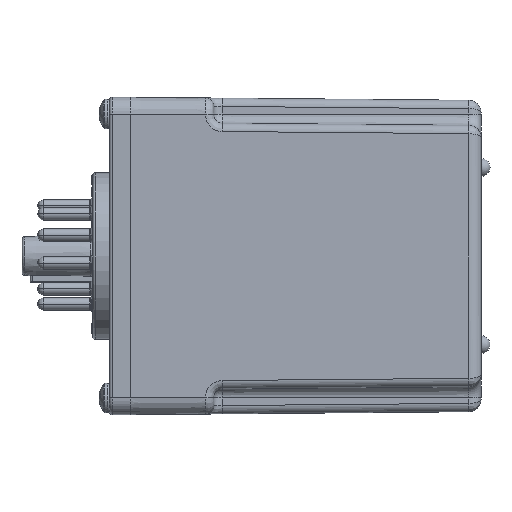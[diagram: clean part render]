
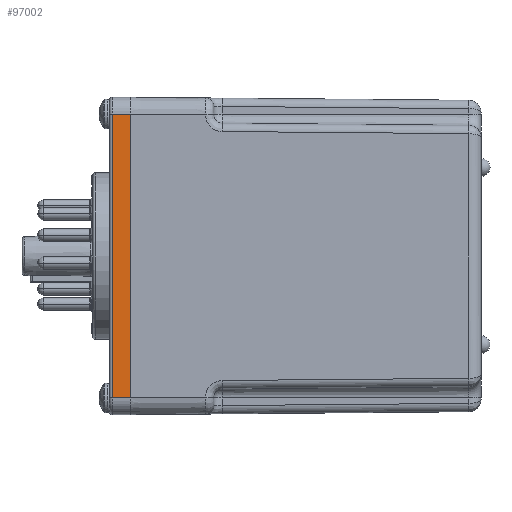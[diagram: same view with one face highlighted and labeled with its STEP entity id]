
A CAD part, left-side view. The second image highlights one B-rep face of the part: STEP entity #97002.
In plain terms, the highlighted planar face has unit normal (-1, 0, 0).
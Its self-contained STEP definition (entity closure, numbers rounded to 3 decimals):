
#75119 = CYLINDRICAL_SURFACE('',#75120,0.508);
#75120 = AXIS2_PLACEMENT_3D('',#75121,#75122,#75123);
#75121 = CARTESIAN_POINT('',(-21.717,29.21,-30.163));
#75122 = DIRECTION('',(0.,0.,1.));
#75123 = DIRECTION('',(1.,0.,0.));
#75706 = PLANE('',#75707);
#75707 = AXIS2_PLACEMENT_3D('',#75708,#75709,#75710);
#75708 = CARTESIAN_POINT('',(-22.225,25.756,-30.163));
#75709 = DIRECTION('',(0.,1.,0.));
#75710 = DIRECTION('',(1.,0.,-0.));
#82195 = VERTEX_POINT('',#82196);
#82196 = CARTESIAN_POINT('',(-22.225,25.756,26.988));
#82215 = CYLINDRICAL_SURFACE('',#82216,3.175);
#82216 = AXIS2_PLACEMENT_3D('',#82217,#82218,#82219);
#82217 = CARTESIAN_POINT('',(-19.05,25.756,26.988));
#82218 = DIRECTION('',(0.,1.,0.));
#82219 = DIRECTION('',(0.,0.,-1.));
#82227 = EDGE_CURVE('',#82228,#82195,#82230,.T.);
#82228 = VERTEX_POINT('',#82229);
#82229 = CARTESIAN_POINT('',(-22.225,25.756,-26.988));
#82230 = SURFACE_CURVE('',#82231,(#82235,#82242),.PCURVE_S1.);
#82231 = LINE('',#82232,#82233);
#82232 = CARTESIAN_POINT('',(-22.225,25.756,-30.163));
#82233 = VECTOR('',#82234,1.);
#82234 = DIRECTION('',(0.,-0.,1.));
#82235 = PCURVE('',#75706,#82236);
#82236 = DEFINITIONAL_REPRESENTATION('',(#82237),#82241);
#82237 = LINE('',#82238,#82239);
#82238 = CARTESIAN_POINT('',(0.,0.));
#82239 = VECTOR('',#82240,1.);
#82240 = DIRECTION('',(0.,-1.));
#82241 = ( GEOMETRIC_REPRESENTATION_CONTEXT(2) 
PARAMETRIC_REPRESENTATION_CONTEXT() REPRESENTATION_CONTEXT('2D SPACE',''
  ) );
#82242 = PCURVE('',#82243,#82248);
#82243 = PLANE('',#82244);
#82244 = AXIS2_PLACEMENT_3D('',#82245,#82246,#82247);
#82245 = CARTESIAN_POINT('',(-22.225,25.756,-30.163));
#82246 = DIRECTION('',(1.,0.,0.));
#82247 = DIRECTION('',(0.,0.,-1.));
#82248 = DEFINITIONAL_REPRESENTATION('',(#82249),#82253);
#82249 = LINE('',#82250,#82251);
#82250 = CARTESIAN_POINT('',(0.,0.));
#82251 = VECTOR('',#82252,1.);
#82252 = DIRECTION('',(-1.,0.));
#82253 = ( GEOMETRIC_REPRESENTATION_CONTEXT(2) 
PARAMETRIC_REPRESENTATION_CONTEXT() REPRESENTATION_CONTEXT('2D SPACE',''
  ) );
#82274 = CYLINDRICAL_SURFACE('',#82275,3.175);
#82275 = AXIS2_PLACEMENT_3D('',#82276,#82277,#82278);
#82276 = CARTESIAN_POINT('',(-19.05,29.718,-26.988));
#82277 = DIRECTION('',(0.,-1.,0.));
#82278 = DIRECTION('',(0.,0.,1.));
#97002 = ADVANCED_FACE('',(#97003),#82243,.F.);
#97003 = FACE_BOUND('',#97004,.T.);
#97004 = EDGE_LOOP('',(#97005,#97028,#97051,#97072));
#97005 = ORIENTED_EDGE('',*,*,#97006,.T.);
#97006 = EDGE_CURVE('',#82195,#97007,#97009,.T.);
#97007 = VERTEX_POINT('',#97008);
#97008 = CARTESIAN_POINT('',(-22.225,29.21,26.988));
#97009 = SURFACE_CURVE('',#97010,(#97014,#97021),.PCURVE_S1.);
#97010 = LINE('',#97011,#97012);
#97011 = CARTESIAN_POINT('',(-22.225,25.756,26.988));
#97012 = VECTOR('',#97013,1.);
#97013 = DIRECTION('',(0.,1.,0.));
#97014 = PCURVE('',#82243,#97015);
#97015 = DEFINITIONAL_REPRESENTATION('',(#97016),#97020);
#97016 = LINE('',#97017,#97018);
#97017 = CARTESIAN_POINT('',(-57.15,0.));
#97018 = VECTOR('',#97019,1.);
#97019 = DIRECTION('',(0.,1.));
#97020 = ( GEOMETRIC_REPRESENTATION_CONTEXT(2) 
PARAMETRIC_REPRESENTATION_CONTEXT() REPRESENTATION_CONTEXT('2D SPACE',''
  ) );
#97021 = PCURVE('',#82215,#97022);
#97022 = DEFINITIONAL_REPRESENTATION('',(#97023),#97027);
#97023 = LINE('',#97024,#97025);
#97024 = CARTESIAN_POINT('',(1.571,0.));
#97025 = VECTOR('',#97026,1.);
#97026 = DIRECTION('',(0.,1.));
#97027 = ( GEOMETRIC_REPRESENTATION_CONTEXT(2) 
PARAMETRIC_REPRESENTATION_CONTEXT() REPRESENTATION_CONTEXT('2D SPACE',''
  ) );
#97028 = ORIENTED_EDGE('',*,*,#97029,.T.);
#97029 = EDGE_CURVE('',#97007,#97030,#97032,.T.);
#97030 = VERTEX_POINT('',#97031);
#97031 = CARTESIAN_POINT('',(-22.225,29.21,-26.988));
#97032 = SURFACE_CURVE('',#97033,(#97037,#97044),.PCURVE_S1.);
#97033 = LINE('',#97034,#97035);
#97034 = CARTESIAN_POINT('',(-22.225,29.21,-30.163));
#97035 = VECTOR('',#97036,1.);
#97036 = DIRECTION('',(0.,0.,-1.));
#97037 = PCURVE('',#82243,#97038);
#97038 = DEFINITIONAL_REPRESENTATION('',(#97039),#97043);
#97039 = LINE('',#97040,#97041);
#97040 = CARTESIAN_POINT('',(0.,3.454));
#97041 = VECTOR('',#97042,1.);
#97042 = DIRECTION('',(1.,0.));
#97043 = ( GEOMETRIC_REPRESENTATION_CONTEXT(2) 
PARAMETRIC_REPRESENTATION_CONTEXT() REPRESENTATION_CONTEXT('2D SPACE',''
  ) );
#97044 = PCURVE('',#75119,#97045);
#97045 = DEFINITIONAL_REPRESENTATION('',(#97046),#97050);
#97046 = LINE('',#97047,#97048);
#97047 = CARTESIAN_POINT('',(3.142,0.));
#97048 = VECTOR('',#97049,1.);
#97049 = DIRECTION('',(0.,-1.));
#97050 = ( GEOMETRIC_REPRESENTATION_CONTEXT(2) 
PARAMETRIC_REPRESENTATION_CONTEXT() REPRESENTATION_CONTEXT('2D SPACE',''
  ) );
#97051 = ORIENTED_EDGE('',*,*,#97052,.T.);
#97052 = EDGE_CURVE('',#97030,#82228,#97053,.T.);
#97053 = SURFACE_CURVE('',#97054,(#97058,#97065),.PCURVE_S1.);
#97054 = LINE('',#97055,#97056);
#97055 = CARTESIAN_POINT('',(-22.225,25.756,-26.988));
#97056 = VECTOR('',#97057,1.);
#97057 = DIRECTION('',(0.,-1.,0.));
#97058 = PCURVE('',#82243,#97059);
#97059 = DEFINITIONAL_REPRESENTATION('',(#97060),#97064);
#97060 = LINE('',#97061,#97062);
#97061 = CARTESIAN_POINT('',(-3.175,0.));
#97062 = VECTOR('',#97063,1.);
#97063 = DIRECTION('',(0.,-1.));
#97064 = ( GEOMETRIC_REPRESENTATION_CONTEXT(2) 
PARAMETRIC_REPRESENTATION_CONTEXT() REPRESENTATION_CONTEXT('2D SPACE',''
  ) );
#97065 = PCURVE('',#82274,#97066);
#97066 = DEFINITIONAL_REPRESENTATION('',(#97067),#97071);
#97067 = LINE('',#97068,#97069);
#97068 = CARTESIAN_POINT('',(1.571,3.962));
#97069 = VECTOR('',#97070,1.);
#97070 = DIRECTION('',(0.,1.));
#97071 = ( GEOMETRIC_REPRESENTATION_CONTEXT(2) 
PARAMETRIC_REPRESENTATION_CONTEXT() REPRESENTATION_CONTEXT('2D SPACE',''
  ) );
#97072 = ORIENTED_EDGE('',*,*,#82227,.T.);
